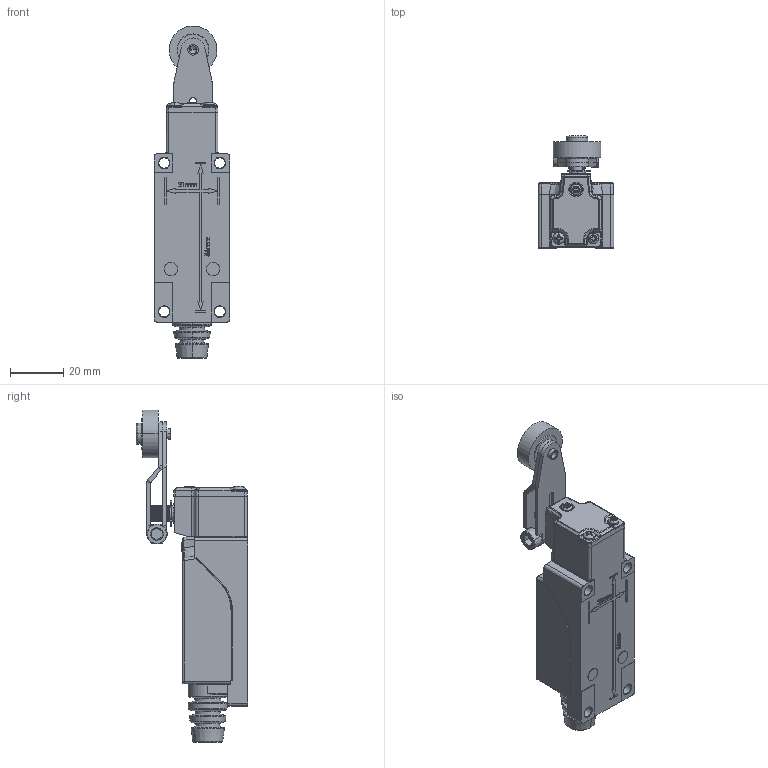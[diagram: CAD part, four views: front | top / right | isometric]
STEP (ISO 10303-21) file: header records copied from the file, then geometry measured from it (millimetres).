
FILE_DESCRIPTION((''),'2;1');
FILE_NAME('ALS1-M11_F1_ASM','2019-02-20T15:45:38',('1'),(''),'CREO PARAMETRIC BY PTC INC, 2016510','CREO PARAMETRIC BY PTC INC, 2016510','');
FILE_SCHEMA(('CONFIG_CONTROL_DESIGN'));
Products named in the file (1): ALS1-M11_F1_ASM
Bounding box: 28.5 x 42.04 x 125.14 mm (x, y, z)
Volume: 24276.2 mm3; surface area: 30970.1 mm2
Topology: 3 solids, 20 shells, 2127 faces, 5645 edges, 3559 vertices
Faces by surface type: plane 823, cylinder 689, torus 209, cone 196, bspline 111, extrusion 61, sphere 38
Entity records: 83063 total; most frequent: CARTESIAN_POINT 31163, ORIENTED_EDGE 11141, DIRECTION 10520, EDGE_CURVE 5604, AXIS2_PLACEMENT_3D 3857, VERTEX_POINT 3558, VECTOR 2806, LINE 2745
